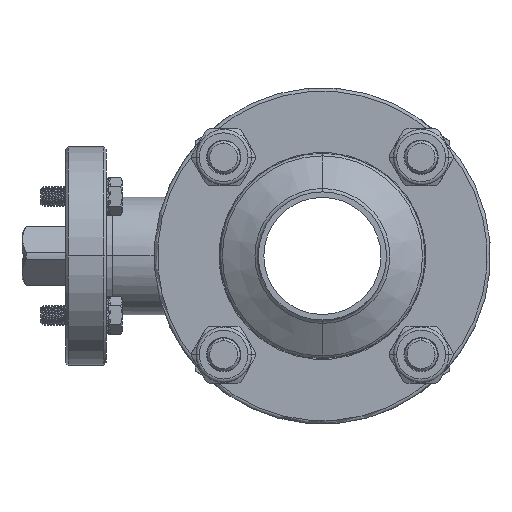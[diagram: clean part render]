
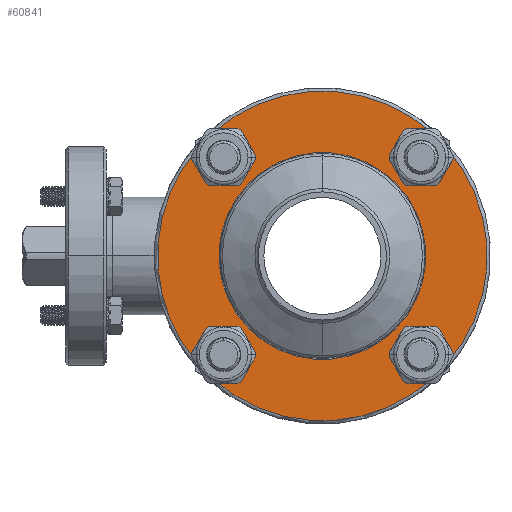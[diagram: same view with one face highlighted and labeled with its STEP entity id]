
A CAD part, left-side view. The second image highlights one B-rep face of the part: STEP entity #60841.
In plain terms, the highlighted planar face has unit normal (-1, 0, 0).
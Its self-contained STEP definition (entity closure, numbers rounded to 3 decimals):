
#2727=CARTESIAN_POINT('',(-39.25,0.,0.));
#2728=DIRECTION('',(1.,0.,0.));
#2729=DIRECTION('',(0.,-0.707,0.707));
#2730=AXIS2_PLACEMENT_3D('',#2727,#2728,#2729);
#2735=CARTESIAN_POINT('',(-39.25,0.,0.));
#2736=DIRECTION('',(-1.,0.,0.));
#2737=DIRECTION('',(0.,-0.707,0.707));
#2738=AXIS2_PLACEMENT_3D('',#2735,#2736,#2737);
#2743=CARTESIAN_POINT('',(-39.25,-29.345,-29.345));
#2744=DIRECTION('',(-1.,0.,0.));
#2745=DIRECTION('',(0.,-1.,0.));
#2746=AXIS2_PLACEMENT_3D('',#2743,#2744,#2745);
#2751=CARTESIAN_POINT('',(-39.25,-29.345,-29.345));
#2752=DIRECTION('',(-1.,0.,0.));
#2753=DIRECTION('',(0.,1.,0.));
#2754=AXIS2_PLACEMENT_3D('',#2751,#2752,#2753);
#2759=CARTESIAN_POINT('',(-39.25,29.345,-29.345));
#2760=DIRECTION('',(-1.,0.,0.));
#2761=DIRECTION('',(0.,0.311,-0.95));
#2762=AXIS2_PLACEMENT_3D('',#2759,#2760,#2761);
#2767=CARTESIAN_POINT('',(-39.25,29.345,-29.345));
#2768=DIRECTION('',(-1.,0.,0.));
#2769=DIRECTION('',(0.,-1.,0.));
#2770=AXIS2_PLACEMENT_3D('',#2767,#2768,#2769);
#2775=CARTESIAN_POINT('',(-39.25,29.345,-29.345));
#2776=DIRECTION('',(-1.,0.,0.));
#2777=DIRECTION('',(0.,1.,0.));
#2778=AXIS2_PLACEMENT_3D('',#2775,#2776,#2777);
#2783=CARTESIAN_POINT('',(-39.25,29.345,29.345));
#2784=DIRECTION('',(-1.,0.,0.));
#2785=DIRECTION('',(0.,0.95,0.311));
#2786=AXIS2_PLACEMENT_3D('',#2783,#2784,#2785);
#2791=CARTESIAN_POINT('',(-39.25,29.345,29.345));
#2792=DIRECTION('',(-1.,0.,0.));
#2793=DIRECTION('',(0.,1.,0.));
#2794=AXIS2_PLACEMENT_3D('',#2791,#2792,#2793);
#2799=CARTESIAN_POINT('',(-39.25,29.345,29.345));
#2800=DIRECTION('',(-1.,0.,0.));
#2801=DIRECTION('',(0.,-1.,0.));
#2802=AXIS2_PLACEMENT_3D('',#2799,#2800,#2801);
#2807=CARTESIAN_POINT('',(-39.25,-29.345,29.345));
#2808=DIRECTION('',(-1.,0.,0.));
#2809=DIRECTION('',(0.,-0.311,0.95));
#2810=AXIS2_PLACEMENT_3D('',#2807,#2808,#2809);
#2815=CARTESIAN_POINT('',(-39.25,-29.345,29.345));
#2816=DIRECTION('',(-1.,0.,0.));
#2817=DIRECTION('',(0.,1.,0.));
#2818=AXIS2_PLACEMENT_3D('',#2815,#2816,#2817);
#2823=CARTESIAN_POINT('',(-39.25,-29.345,29.345));
#2824=DIRECTION('',(-1.,0.,0.));
#2825=DIRECTION('',(0.,-1.,0.));
#2826=AXIS2_PLACEMENT_3D('',#2823,#2824,#2825);
#2831=CARTESIAN_POINT('',(-39.25,-29.345,-29.345));
#2832=DIRECTION('',(-1.,0.,0.));
#2833=DIRECTION('',(0.,-0.95,-0.311));
#2834=AXIS2_PLACEMENT_3D('',#2831,#2832,#2833);
#3383=CARTESIAN_POINT('',(-39.25,0.,0.));
#3384=DIRECTION('',(1.,0.,0.));
#3385=DIRECTION('',(0.,-0.759,0.651));
#3386=AXIS2_PLACEMENT_3D('',#3383,#3384,#3385);
#3431=CARTESIAN_POINT('',(-39.25,0.,0.));
#3432=DIRECTION('',(1.,0.,0.));
#3433=DIRECTION('',(0.,-0.651,-0.759));
#3434=AXIS2_PLACEMENT_3D('',#3431,#3432,#3433);
#7469=CARTESIAN_POINT('',(-39.25,0.,0.));
#7470=DIRECTION('',(-1.,0.,0.));
#7471=DIRECTION('',(0.,-0.651,0.759));
#7472=AXIS2_PLACEMENT_3D('',#7469,#7470,#7471);
#7485=CARTESIAN_POINT('',(-39.25,0.,0.));
#7486=DIRECTION('',(-1.,0.,0.));
#7487=DIRECTION('',(0.,0.759,0.651));
#7488=AXIS2_PLACEMENT_3D('',#7485,#7486,#7487);
#57476=CARTESIAN_POINT('',(-39.25,-21.744,21.744));
#57477=CARTESIAN_POINT('',(-39.25,21.744,-21.744));
#57478=VERTEX_POINT('',#57476);
#57479=VERTEX_POINT('',#57477);
#57816=CARTESIAN_POINT('',(-39.25,21.095,-29.345));
#57817=CARTESIAN_POINT('',(-39.25,37.595,-29.345));
#57818=VERTEX_POINT('',#57816);
#57819=VERTEX_POINT('',#57817);
#57820=CARTESIAN_POINT('',(-39.25,37.186,-31.909));
#57821=VERTEX_POINT('',#57820);
#57822=CARTESIAN_POINT('',(-39.25,31.909,-37.186));
#57823=VERTEX_POINT('',#57822);
#57966=CARTESIAN_POINT('',(-39.25,21.095,29.345));
#57967=CARTESIAN_POINT('',(-39.25,31.909,37.186));
#57968=VERTEX_POINT('',#57966);
#57969=VERTEX_POINT('',#57967);
#57970=CARTESIAN_POINT('',(-39.25,37.186,31.909));
#57971=CARTESIAN_POINT('',(-39.25,37.595,29.345));
#57972=VERTEX_POINT('',#57970);
#57973=VERTEX_POINT('',#57971);
#58114=CARTESIAN_POINT('',(-39.25,-37.595,29.345));
#58115=CARTESIAN_POINT('',(-39.25,-37.186,31.909));
#58116=VERTEX_POINT('',#58114);
#58117=VERTEX_POINT('',#58115);
#58118=CARTESIAN_POINT('',(-39.25,-31.909,37.186));
#58119=CARTESIAN_POINT('',(-39.25,-21.095,29.345));
#58120=VERTEX_POINT('',#58118);
#58121=VERTEX_POINT('',#58119);
#58264=CARTESIAN_POINT('',(-39.25,-37.595,-29.345));
#58265=CARTESIAN_POINT('',(-39.25,-21.095,-29.345));
#58266=VERTEX_POINT('',#58264);
#58267=VERTEX_POINT('',#58265);
#58268=CARTESIAN_POINT('',(-39.25,-31.909,-37.186));
#58269=VERTEX_POINT('',#58268);
#58270=CARTESIAN_POINT('',(-39.25,-37.186,-31.909));
#58271=VERTEX_POINT('',#58270);
#60798=CARTESIAN_POINT('',(-39.25,0.,0.));
#60799=DIRECTION('',(-1.,0.,0.));
#60800=DIRECTION('',(0.,0.707,-0.707));
#60801=AXIS2_PLACEMENT_3D('',#60798,#60799,#60800);
#60802=PLANE('',#60801);
#60804=ORIENTED_EDGE('',*,*,#60803,.T.);
#60805=ORIENTED_EDGE('',*,*,#60776,.T.);
#60807=ORIENTED_EDGE('',*,*,#60806,.T.);
#60809=ORIENTED_EDGE('',*,*,#60808,.T.);
#60811=ORIENTED_EDGE('',*,*,#60810,.T.);
#60813=ORIENTED_EDGE('',*,*,#60812,.T.);
#60815=ORIENTED_EDGE('',*,*,#60814,.F.);
#60817=ORIENTED_EDGE('',*,*,#60816,.T.);
#60819=ORIENTED_EDGE('',*,*,#60818,.T.);
#60821=ORIENTED_EDGE('',*,*,#60820,.T.);
#60823=ORIENTED_EDGE('',*,*,#60822,.F.);
#60825=ORIENTED_EDGE('',*,*,#60824,.T.);
#60827=ORIENTED_EDGE('',*,*,#60826,.T.);
#60829=ORIENTED_EDGE('',*,*,#60828,.T.);
#60831=ORIENTED_EDGE('',*,*,#60830,.T.);
#60832=ORIENTED_EDGE('',*,*,#60791,.T.);
#60833=EDGE_LOOP('',(#60804,#60805,#60807,#60809,#60811,#60813,#60815,#60817,
#60819,#60821,#60823,#60825,#60827,#60829,#60831,#60832));
#60834=FACE_OUTER_BOUND('',#60833,.F.);
#60836=ORIENTED_EDGE('',*,*,#60835,.F.);
#60838=ORIENTED_EDGE('',*,*,#60837,.T.);
#60839=EDGE_LOOP('',(#60836,#60838));
#60840=FACE_BOUND('',#60839,.F.);
#60841=ADVANCED_FACE('',(#60834,#60840),#60802,.T.);
#2731=CIRCLE('',#2730,30.75);
#2739=CIRCLE('',#2738,30.75);
#2747=CIRCLE('',#2746,8.25);
#2755=CIRCLE('',#2754,8.25);
#2763=CIRCLE('',#2762,8.25);
#2771=CIRCLE('',#2770,8.25);
#2779=CIRCLE('',#2778,8.25);
#2787=CIRCLE('',#2786,8.25);
#2795=CIRCLE('',#2794,8.25);
#2803=CIRCLE('',#2802,8.25);
#2811=CIRCLE('',#2810,8.25);
#2819=CIRCLE('',#2818,8.25);
#2827=CIRCLE('',#2826,8.25);
#2835=CIRCLE('',#2834,8.25);
#3387=CIRCLE('',#3386,49.);
#3435=CIRCLE('',#3434,49.);
#7473=CIRCLE('',#7472,49.);
#7489=CIRCLE('',#7488,49.);
#60776=EDGE_CURVE('',#58267,#58269,#2755,.T.);
#60791=EDGE_CURVE('',#58271,#58266,#2835,.T.);
#60803=EDGE_CURVE('',#58266,#58267,#2747,.T.);
#60806=EDGE_CURVE('',#58269,#57823,#3435,.T.);
#60808=EDGE_CURVE('',#57823,#57818,#2763,.T.);
#60810=EDGE_CURVE('',#57818,#57819,#2771,.T.);
#60812=EDGE_CURVE('',#57819,#57821,#2779,.T.);
#60814=EDGE_CURVE('',#57972,#57821,#7489,.T.);
#60816=EDGE_CURVE('',#57972,#57973,#2787,.T.);
#60818=EDGE_CURVE('',#57973,#57968,#2795,.T.);
#60820=EDGE_CURVE('',#57968,#57969,#2803,.T.);
#60822=EDGE_CURVE('',#58120,#57969,#7473,.T.);
#60824=EDGE_CURVE('',#58120,#58121,#2811,.T.);
#60826=EDGE_CURVE('',#58121,#58116,#2819,.T.);
#60828=EDGE_CURVE('',#58116,#58117,#2827,.T.);
#60830=EDGE_CURVE('',#58117,#58271,#3387,.T.);
#60835=EDGE_CURVE('',#57478,#57479,#2731,.T.);
#60837=EDGE_CURVE('',#57478,#57479,#2739,.T.);
